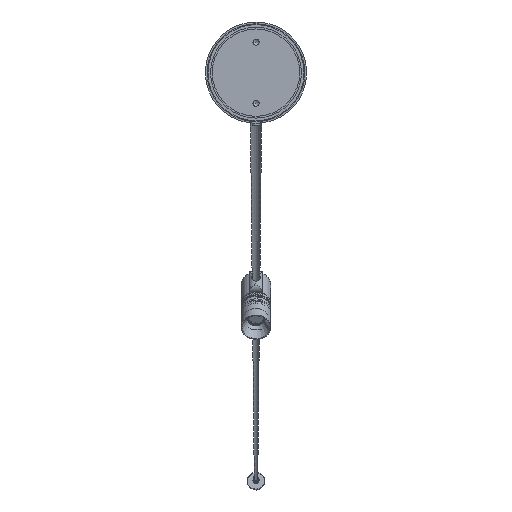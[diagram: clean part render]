
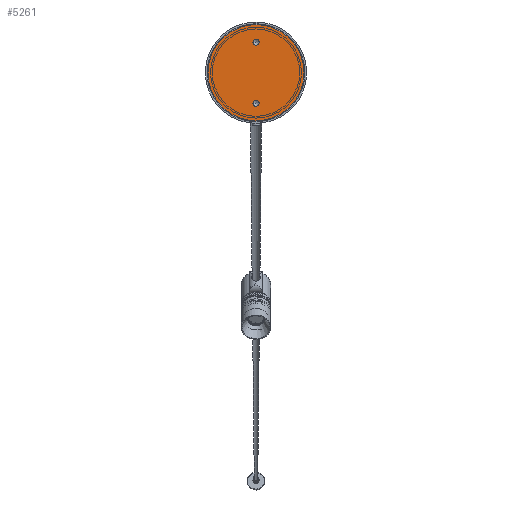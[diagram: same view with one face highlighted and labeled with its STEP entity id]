
A CAD part, front view. The second image highlights one B-rep face of the part: STEP entity #5261.
In plain terms, the highlighted planar face has unit normal (0, -1, 0).
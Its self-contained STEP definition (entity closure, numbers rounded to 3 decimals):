
#334=FACE_BOUND('',#906,.T.);
#335=FACE_BOUND('',#907,.T.);
#391=PLANE('',#5658);
#571=FACE_OUTER_BOUND('',#905,.T.);
#905=EDGE_LOOP('',(#3522));
#906=EDGE_LOOP('',(#3523));
#907=EDGE_LOOP('',(#3524));
#1859=CIRCLE('',#5636,1.75);
#1861=CIRCLE('',#5640,1.75);
#1868=CIRCLE('',#5652,27.5);
#2143=VERTEX_POINT('',#8007);
#2146=VERTEX_POINT('',#8016);
#2154=VERTEX_POINT('',#8040);
#2673=EDGE_CURVE('',#2143,#2143,#1859,.T.);
#2677=EDGE_CURVE('',#2146,#2146,#1861,.T.);
#2689=EDGE_CURVE('',#2154,#2154,#1868,.T.);
#3522=ORIENTED_EDGE('',*,*,#2689,.F.);
#3523=ORIENTED_EDGE('',*,*,#2673,.T.);
#3524=ORIENTED_EDGE('',*,*,#2677,.T.);
#5261=ADVANCED_FACE('',(#571,#334,#335),#391,.T.);
#5636=AXIS2_PLACEMENT_3D('',#8008,#6371,#6372);
#5640=AXIS2_PLACEMENT_3D('',#8017,#6381,#6382);
#5652=AXIS2_PLACEMENT_3D('',#8042,#6410,#6411);
#5658=AXIS2_PLACEMENT_3D('',#8051,#6423,#6424);
#6371=DIRECTION('center_axis',(0.,1.,0.));
#6372=DIRECTION('ref_axis',(1.,0.,0.));
#6381=DIRECTION('center_axis',(0.,1.,0.));
#6382=DIRECTION('ref_axis',(1.,0.,0.));
#6410=DIRECTION('center_axis',(0.,1.,0.));
#6411=DIRECTION('ref_axis',(-1.,0.,0.));
#6423=DIRECTION('center_axis',(0.,-1.,0.));
#6424=DIRECTION('ref_axis',(1.,0.,0.));
#8007=CARTESIAN_POINT('',(-1.75,-54.,-282.5));
#8008=CARTESIAN_POINT('Origin',(0.,-54.,-282.5));
#8016=CARTESIAN_POINT('',(-1.75,-54.,-317.5));
#8017=CARTESIAN_POINT('Origin',(0.,-54.,-317.5));
#8040=CARTESIAN_POINT('',(0.,-54.,-272.5));
#8042=CARTESIAN_POINT('Origin',(0.,-54.,-300.));
#8051=CARTESIAN_POINT('Origin',(0.,-54.,-327.5));
